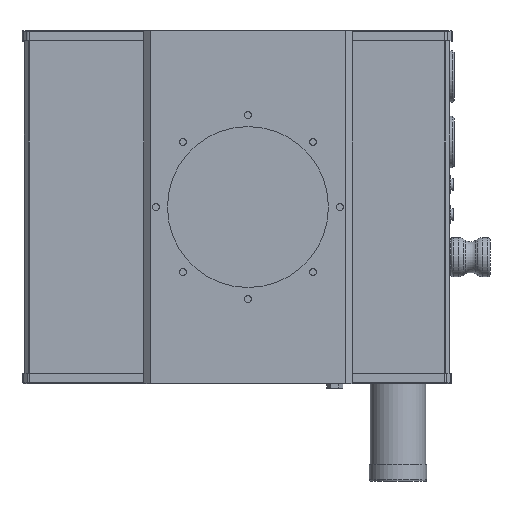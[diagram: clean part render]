
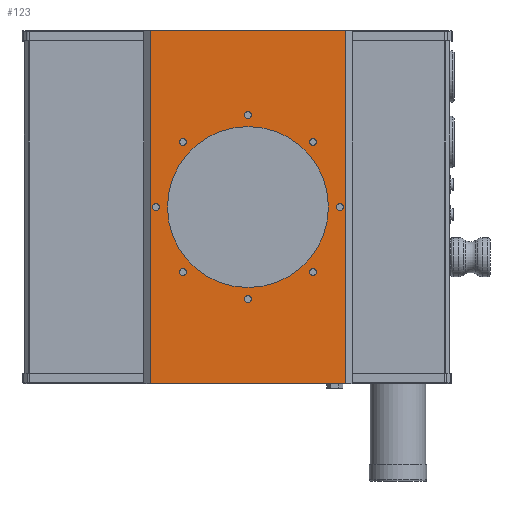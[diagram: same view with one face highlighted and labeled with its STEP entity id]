
A CAD part, top view. The second image highlights one B-rep face of the part: STEP entity #123.
In plain terms, the highlighted planar face has unit normal (0, 0, 1).
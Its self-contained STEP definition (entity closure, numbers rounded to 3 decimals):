
#123=ADVANCED_FACE('',(#961,#962,#963,#964,#965,#966,#967,#968,#969,#970
   ),#1030,.T.);
#456=EDGE_CURVE('',#462,#462,#457,.T.);
#457=CIRCLE('',#458,70.);
#458=AXIS2_PLACEMENT_3D('',#459,#460,#461);
#459=CARTESIAN_POINT('',(9.5,151.5,47.));
#460=DIRECTION('',(0.,0.,-1.));
#461=DIRECTION('',(1.,0.,0.));
#462=VERTEX_POINT('',#463);
#463=CARTESIAN_POINT('',(79.5,151.5,47.));
#738=EDGE_CURVE('',#744,#744,#739,.T.);
#739=CIRCLE('',#740,3.);
#740=AXIS2_PLACEMENT_3D('',#741,#742,#743);
#741=CARTESIAN_POINT('',(66.065,94.928,
   47.));
#742=DIRECTION('',(0.,0.,
   -1.));
#743=DIRECTION('',(-0.707,-0.707,
   0.));
#744=VERTEX_POINT('',#745);
#745=CARTESIAN_POINT('',(63.944,92.806,
   47.));
#773=EDGE_CURVE('',#779,#779,#774,.T.);
#774=CIRCLE('',#775,3.);
#775=AXIS2_PLACEMENT_3D('',#776,#777,#778);
#776=CARTESIAN_POINT('',(89.5,151.495,
   47.));
#777=DIRECTION('',(0.,0.,
   -1.));
#778=DIRECTION('',(0.,-1.,0.));
#779=VERTEX_POINT('',#780);
#780=CARTESIAN_POINT('',(89.5,148.495,
   47.));
#808=EDGE_CURVE('',#814,#814,#809,.T.);
#809=CIRCLE('',#810,3.);
#810=AXIS2_PLACEMENT_3D('',#811,#812,#813);
#811=CARTESIAN_POINT('',(66.072,208.065,
   47.));
#812=DIRECTION('',(0.,0.,
   -1.));
#813=DIRECTION('',(0.707,-0.707,
   0.));
#814=VERTEX_POINT('',#815);
#815=CARTESIAN_POINT('',(68.194,205.944,
   47.));
#843=EDGE_CURVE('',#849,#849,#844,.T.);
#844=CIRCLE('',#845,3.);
#845=AXIS2_PLACEMENT_3D('',#846,#847,#848);
#846=CARTESIAN_POINT('',(9.505,231.5,
   47.));
#847=DIRECTION('',(0.,0.,-1.
   ));
#848=DIRECTION('',(1.,0.,0.
   ));
#849=VERTEX_POINT('',#850);
#850=CARTESIAN_POINT('',(12.505,231.5,
   47.));
#878=EDGE_CURVE('',#884,#884,#879,.T.);
#879=CIRCLE('',#880,3.);
#880=AXIS2_PLACEMENT_3D('',#881,#882,#883);
#881=CARTESIAN_POINT('',(-47.065,208.072,
   47.));
#882=DIRECTION('',(0.,0.,-1.));
#883=DIRECTION('',(0.707,0.707,
   0.));
#884=VERTEX_POINT('',#885);
#885=CARTESIAN_POINT('',(-44.944,210.194,
   47.));
#913=EDGE_CURVE('',#919,#919,#914,.T.);
#914=CIRCLE('',#915,3.);
#915=AXIS2_PLACEMENT_3D('',#916,#917,#918);
#916=CARTESIAN_POINT('',(-70.5,151.505,
   47.));
#917=DIRECTION('',(0.,0.,-1.
   ));
#918=DIRECTION('',(0.,1.,0.)
   );
#919=VERTEX_POINT('',#920);
#920=CARTESIAN_POINT('',(-70.5,154.505,
   47.));
#948=EDGE_CURVE('',#954,#954,#949,.T.);
#949=CIRCLE('',#950,3.);
#950=AXIS2_PLACEMENT_3D('',#951,#952,#953);
#951=CARTESIAN_POINT('',(-47.072,94.935,
   47.));
#952=DIRECTION('',(0.,0.,-1.
   ));
#953=DIRECTION('',(-0.707,0.707,
   0.));
#954=VERTEX_POINT('',#955);
#955=CARTESIAN_POINT('',(-49.194,97.056,
   47.));
#961=FACE_OUTER_BOUND('',#971,.T.);
#962=FACE_BOUND('',#972,.T.);
#963=FACE_BOUND('',#973,.T.);
#964=FACE_BOUND('',#974,.T.);
#965=FACE_BOUND('',#975,.T.);
#966=FACE_BOUND('',#976,.T.);
#967=FACE_BOUND('',#977,.T.);
#968=FACE_BOUND('',#978,.T.);
#969=FACE_BOUND('',#979,.T.);
#970=FACE_BOUND('',#980,.T.);
#971=EDGE_LOOP('',(#981));
#972=EDGE_LOOP('',(#982));
#973=EDGE_LOOP('',(#983));
#974=EDGE_LOOP('',(#984));
#975=EDGE_LOOP('',(#985));
#976=EDGE_LOOP('',(#986));
#977=EDGE_LOOP('',(#987));
#978=EDGE_LOOP('',(#988));
#979=EDGE_LOOP('',(#997,#998,#999,#1000));
#980=EDGE_LOOP('',(#1029));
#981=ORIENTED_EDGE('',*,*,#738,.T.);
#982=ORIENTED_EDGE('',*,*,#773,.T.);
#983=ORIENTED_EDGE('',*,*,#808,.T.);
#984=ORIENTED_EDGE('',*,*,#843,.T.);
#985=ORIENTED_EDGE('',*,*,#878,.T.);
#986=ORIENTED_EDGE('',*,*,#913,.T.);
#987=ORIENTED_EDGE('',*,*,#948,.T.);
#988=ORIENTED_EDGE('',*,*,#989,.T.);
#989=EDGE_CURVE('',#995,#995,#990,.T.);
#990=CIRCLE('',#991,3.);
#991=AXIS2_PLACEMENT_3D('',#992,#993,#994);
#992=CARTESIAN_POINT('',(9.495,71.5,
   47.));
#993=DIRECTION('',(0.,0.,-1.));
#994=DIRECTION('',(-1.,0.,0.));
#995=VERTEX_POINT('',#996);
#996=CARTESIAN_POINT('',(6.495,71.5,
   47.));
#997=ORIENTED_EDGE('',*,*,#1001,.T.);
#998=ORIENTED_EDGE('',*,*,#1010,.T.);
#999=ORIENTED_EDGE('',*,*,#1017,.F.);
#1000=ORIENTED_EDGE('',*,*,#1024,.F.);
#1001=EDGE_CURVE('',#1006,#1007,#1002,.T.);
#1002=LINE('',#1003,#1004);
#1003=CARTESIAN_POINT('',(-75.5,303.,47.));
#1004=VECTOR('',#1005,1.);
#1005=DIRECTION('',(0.,-1.,0.));
#1006=VERTEX_POINT('',#1008);
#1007=VERTEX_POINT('',#1009);
#1008=CARTESIAN_POINT('',(-75.5,305.,47.));
#1009=CARTESIAN_POINT('',(-75.5,-2.,47.));
#1010=EDGE_CURVE('',#1007,#1015,#1011,.T.);
#1011=LINE('',#1012,#1013);
#1012=CARTESIAN_POINT('',(-75.5,-2.,47.));
#1013=VECTOR('',#1014,1.);
#1014=DIRECTION('',(1.,0.,0.));
#1015=VERTEX_POINT('',#1016);
#1016=CARTESIAN_POINT('',(94.5,-2.,47.));
#1017=EDGE_CURVE('',#1022,#1015,#1018,.T.);
#1018=LINE('',#1019,#1020);
#1019=CARTESIAN_POINT('',(94.5,303.,47.));
#1020=VECTOR('',#1021,1.);
#1021=DIRECTION('',(0.,-1.,0.));
#1022=VERTEX_POINT('',#1023);
#1023=CARTESIAN_POINT('',(94.5,305.,47.));
#1024=EDGE_CURVE('',#1006,#1022,#1025,.T.);
#1025=LINE('',#1026,#1027);
#1026=CARTESIAN_POINT('',(-75.5,305.,47.));
#1027=VECTOR('',#1028,1.);
#1028=DIRECTION('',(1.,0.,0.));
#1029=ORIENTED_EDGE('',*,*,#456,.T.);
#1030=PLANE('',#1031);
#1031=AXIS2_PLACEMENT_3D('',#1032,#1033,#1034);
#1032=CARTESIAN_POINT('',(-75.5,303.,47.));
#1033=DIRECTION('',(0.,0.,1.));
#1034=DIRECTION('',(1.,0.,0.));
